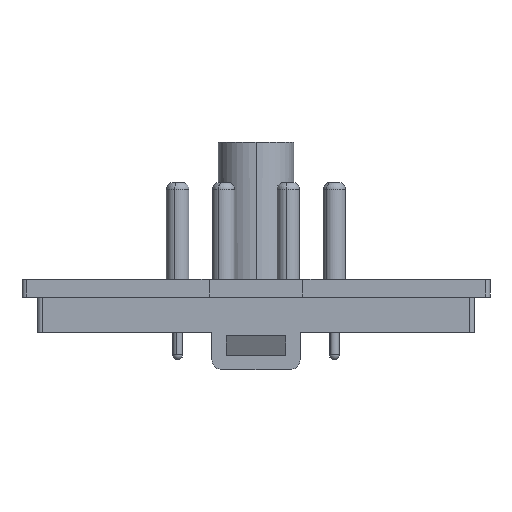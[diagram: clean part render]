
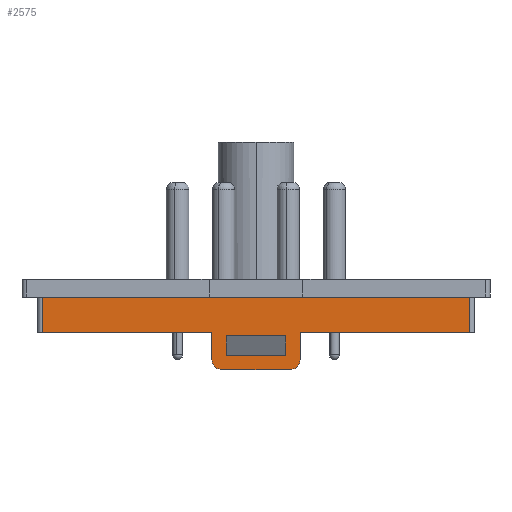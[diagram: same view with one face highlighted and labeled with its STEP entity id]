
A CAD part, left-side view. The second image highlights one B-rep face of the part: STEP entity #2575.
In plain terms, the highlighted planar face has unit normal (-1, 0, 0).
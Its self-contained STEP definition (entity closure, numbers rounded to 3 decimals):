
#68 = CARTESIAN_POINT ( 'NONE',  ( -22.35, 3.5, -9.2 ) ) ;
#154 = VECTOR ( 'NONE', #894, 1000. ) ;
#180 = AXIS2_PLACEMENT_3D ( 'NONE', #3673, #2995, #4313 ) ;
#207 = VECTOR ( 'NONE', #3727, 1000. ) ;
#254 = CARTESIAN_POINT ( 'NONE',  ( -22.35, -3.05, -7.75 ) ) ;
#265 = VECTOR ( 'NONE', #1929, 1000. ) ;
#273 = VERTEX_POINT ( 'NONE', #1054 ) ;
#366 = LINE ( 'NONE', #2626, #265 ) ;
#402 = ORIENTED_EDGE ( 'NONE', *, *, #1780, .F. ) ;
#415 = VECTOR ( 'NONE', #3067, 1000. ) ;
#466 = LINE ( 'NONE', #3929, #2147 ) ;
#518 = CARTESIAN_POINT ( 'NONE',  ( -22.35, 21.85, -5.4 ) ) ;
#523 = LINE ( 'NONE', #1680, #3296 ) ;
#535 = VERTEX_POINT ( 'NONE', #3518 ) ;
#552 = CARTESIAN_POINT ( 'NONE',  ( -22.35, 3.5, -9.2 ) ) ;
#580 = CARTESIAN_POINT ( 'NONE',  ( -22.35, 3.05, -7.75 ) ) ;
#644 = CARTESIAN_POINT ( 'NONE',  ( -22.35, -3.05, -5.75 ) ) ;
#750 = VECTOR ( 'NONE', #3664, 1000. ) ;
#845 = VERTEX_POINT ( 'NONE', #946 ) ;
#894 = DIRECTION ( 'NONE',  ( 0., 0., -1. ) ) ;
#922 = DIRECTION ( 'NONE',  ( 1., 0., 0. ) ) ;
#936 = DIRECTION ( 'NONE',  ( 1., 0., 0. ) ) ;
#946 = CARTESIAN_POINT ( 'NONE',  ( -22.35, -4.5, -8.2 ) ) ;
#1054 = CARTESIAN_POINT ( 'NONE',  ( -22.35, -3.05, -5.75 ) ) ;
#1072 = VERTEX_POINT ( 'NONE', #2570 ) ;
#1105 = CARTESIAN_POINT ( 'NONE',  ( -22.35, 3.05, -5.75 ) ) ;
#1111 = ORIENTED_EDGE ( 'NONE', *, *, #1775, .F. ) ;
#1203 = LINE ( 'NONE', #3623, #3034 ) ;
#1232 = VERTEX_POINT ( 'NONE', #580 ) ;
#1360 = VERTEX_POINT ( 'NONE', #4393 ) ;
#1448 = ORIENTED_EDGE ( 'NONE', *, *, #1725, .T. ) ;
#1459 = EDGE_LOOP ( 'NONE', ( #2474, #2362, #3859, #2471 ) ) ;
#1590 = VECTOR ( 'NONE', #1988, 1000. ) ;
#1680 = CARTESIAN_POINT ( 'NONE',  ( -22.35, -3.05, -7.75 ) ) ;
#1691 = EDGE_CURVE ( 'NONE', #2534, #1360, #466, .T. ) ;
#1696 = EDGE_CURVE ( 'NONE', #2534, #2834, #366, .T. ) ;
#1701 = LINE ( 'NONE', #552, #750 ) ;
#1720 = EDGE_CURVE ( 'NONE', #2834, #2279, #1203, .T. ) ;
#1725 = EDGE_CURVE ( 'NONE', #2279, #535, #2921, .T. ) ;
#1742 = EDGE_CURVE ( 'NONE', #1072, #535, #3710, .T. ) ;
#1751 = EDGE_CURVE ( 'NONE', #2813, #1072, #2032, .T. ) ;
#1764 = EDGE_CURVE ( 'NONE', #3434, #2813, #1810, .T. ) ;
#1769 = AXIS2_PLACEMENT_3D ( 'NONE', #3000, #936, #3342 ) ;
#1775 = EDGE_CURVE ( 'NONE', #3864, #3434, #1701, .T. ) ;
#1780 = EDGE_CURVE ( 'NONE', #845, #3864, #3397, .T. ) ;
#1783 = EDGE_CURVE ( 'NONE', #1360, #845, #4261, .T. ) ;
#1810 = CIRCLE ( 'NONE', #1852, 1. ) ;
#1825 = ORIENTED_EDGE ( 'NONE', *, *, #1720, .T. ) ;
#1829 = CARTESIAN_POINT ( 'NONE',  ( -22.35, 21.85, -1.8 ) ) ;
#1836 = EDGE_CURVE ( 'NONE', #3670, #273, #2630, .T. ) ;
#1843 = EDGE_CURVE ( 'NONE', #3670, #1232, #523, .T. ) ;
#1852 = AXIS2_PLACEMENT_3D ( 'NONE', #2985, #922, #3326 ) ;
#1863 = EDGE_CURVE ( 'NONE', #1232, #4159, #2088, .T. ) ;
#1870 = EDGE_CURVE ( 'NONE', #273, #4159, #1974, .T. ) ;
#1923 = VECTOR ( 'NONE', #1956, 1000. ) ;
#1929 = DIRECTION ( 'NONE',  ( 0., 0., 1. ) ) ;
#1956 = DIRECTION ( 'NONE',  ( 0., 1., 0. ) ) ;
#1968 = ORIENTED_EDGE ( 'NONE', *, *, #1691, .F. ) ;
#1974 = LINE ( 'NONE', #644, #415 ) ;
#1988 = DIRECTION ( 'NONE',  ( 0., 0., -1. ) ) ;
#1996 = PLANE ( 'NONE',  #180 ) ;
#2032 = LINE ( 'NONE', #2969, #4356 ) ;
#2047 = FACE_OUTER_BOUND ( 'NONE', #3762, .T. ) ;
#2086 = ORIENTED_EDGE ( 'NONE', *, *, #1783, .F. ) ;
#2088 = LINE ( 'NONE', #2396, #207 ) ;
#2147 = VECTOR ( 'NONE', #2925, 1000. ) ;
#2201 = ORIENTED_EDGE ( 'NONE', *, *, #1751, .F. ) ;
#2279 = VERTEX_POINT ( 'NONE', #1829 ) ;
#2281 = FACE_BOUND ( 'NONE', #1459, .T. ) ;
#2304 = ORIENTED_EDGE ( 'NONE', *, *, #1764, .F. ) ;
#2305 = DIRECTION ( 'NONE',  ( 0., 1., 0. ) ) ;
#2362 = ORIENTED_EDGE ( 'NONE', *, *, #1843, .T. ) ;
#2396 = CARTESIAN_POINT ( 'NONE',  ( -22.35, 3.05, -7.75 ) ) ;
#2471 = ORIENTED_EDGE ( 'NONE', *, *, #1870, .F. ) ;
#2474 = ORIENTED_EDGE ( 'NONE', *, *, #1836, .F. ) ;
#2534 = VERTEX_POINT ( 'NONE', #2979 ) ;
#2570 = CARTESIAN_POINT ( 'NONE',  ( -22.35, 4.5, -5.4 ) ) ;
#2575 = ADVANCED_FACE ( 'NONE', ( #2047, #2281 ), #1996, .F. ) ;
#2626 = CARTESIAN_POINT ( 'NONE',  ( -22.35, -21.85, -5.4 ) ) ;
#2630 = LINE ( 'NONE', #254, #3177 ) ;
#2643 = ORIENTED_EDGE ( 'NONE', *, *, #1696, .T. ) ;
#2655 = CARTESIAN_POINT ( 'NONE',  ( -22.35, 22.35, -5.4 ) ) ;
#2765 = CARTESIAN_POINT ( 'NONE',  ( -22.35, -21.85, -1.8 ) ) ;
#2813 = VERTEX_POINT ( 'NONE', #3102 ) ;
#2834 = VERTEX_POINT ( 'NONE', #2765 ) ;
#2921 = LINE ( 'NONE', #518, #154 ) ;
#2925 = DIRECTION ( 'NONE',  ( 0., 1., 0. ) ) ;
#2969 = CARTESIAN_POINT ( 'NONE',  ( -22.35, 4.5, -1.8 ) ) ;
#2979 = CARTESIAN_POINT ( 'NONE',  ( -22.35, -21.85, -5.4 ) ) ;
#2985 = CARTESIAN_POINT ( 'NONE',  ( -22.35, 3.5, -8.2 ) ) ;
#2995 = DIRECTION ( 'NONE',  ( 1., 0., 0. ) ) ;
#3000 = CARTESIAN_POINT ( 'NONE',  ( -22.35, -3.5, -8.2 ) ) ;
#3034 = VECTOR ( 'NONE', #2305, 1000. ) ;
#3067 = DIRECTION ( 'NONE',  ( 0., 1., 0. ) ) ;
#3102 = CARTESIAN_POINT ( 'NONE',  ( -22.35, 4.5, -8.2 ) ) ;
#3177 = VECTOR ( 'NONE', #4328, 1000. ) ;
#3279 = CARTESIAN_POINT ( 'NONE',  ( -22.35, -3.05, -7.75 ) ) ;
#3296 = VECTOR ( 'NONE', #3701, 1000. ) ;
#3326 = DIRECTION ( 'NONE',  ( 0., 0., -1. ) ) ;
#3342 = DIRECTION ( 'NONE',  ( 0., 0., 1. ) ) ;
#3397 = CIRCLE ( 'NONE', #1769, 1. ) ;
#3409 = CARTESIAN_POINT ( 'NONE',  ( -22.35, -3.5, -9.2 ) ) ;
#3434 = VERTEX_POINT ( 'NONE', #68 ) ;
#3518 = CARTESIAN_POINT ( 'NONE',  ( -22.35, 21.85, -5.4 ) ) ;
#3623 = CARTESIAN_POINT ( 'NONE',  ( -22.35, 22.35, -1.8 ) ) ;
#3647 = DIRECTION ( 'NONE',  ( 0., 0., 1. ) ) ;
#3664 = DIRECTION ( 'NONE',  ( 0., 1., 0. ) ) ;
#3670 = VERTEX_POINT ( 'NONE', #3279 ) ;
#3673 = CARTESIAN_POINT ( 'NONE',  ( -22.35, 22.35, -5.4 ) ) ;
#3701 = DIRECTION ( 'NONE',  ( 0., 1., 0. ) ) ;
#3710 = LINE ( 'NONE', #2655, #1923 ) ;
#3727 = DIRECTION ( 'NONE',  ( 0., 0., 1. ) ) ;
#3762 = EDGE_LOOP ( 'NONE', ( #1968, #2643, #1825, #1448, #3845, #2201, #2304, #1111, #402, #2086 ) ) ;
#3845 = ORIENTED_EDGE ( 'NONE', *, *, #1742, .F. ) ;
#3859 = ORIENTED_EDGE ( 'NONE', *, *, #1863, .T. ) ;
#3864 = VERTEX_POINT ( 'NONE', #3409 ) ;
#3929 = CARTESIAN_POINT ( 'NONE',  ( -22.35, 22.35, -5.4 ) ) ;
#4159 = VERTEX_POINT ( 'NONE', #1105 ) ;
#4261 = LINE ( 'NONE', #4303, #1590 ) ;
#4303 = CARTESIAN_POINT ( 'NONE',  ( -22.35, -4.5, -1.8 ) ) ;
#4313 = DIRECTION ( 'NONE',  ( 0., 0., -1. ) ) ;
#4328 = DIRECTION ( 'NONE',  ( 0., 0., 1. ) ) ;
#4356 = VECTOR ( 'NONE', #3647, 1000. ) ;
#4393 = CARTESIAN_POINT ( 'NONE',  ( -22.35, -4.5, -5.4 ) ) ;
